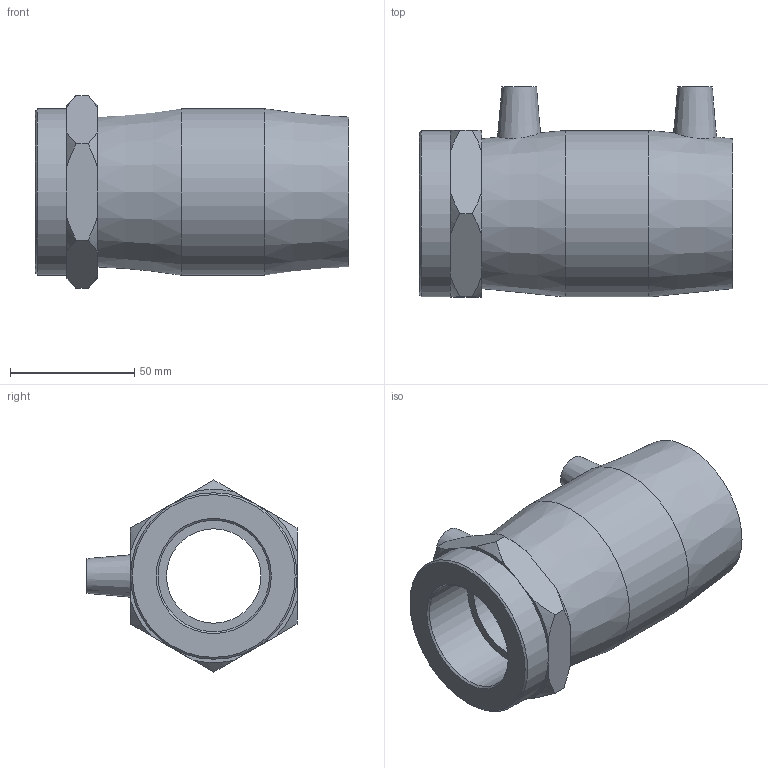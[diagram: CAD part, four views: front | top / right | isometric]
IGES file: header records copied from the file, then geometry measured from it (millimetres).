
Global section: file name: 493104050015.ipt; native system: Autodesk Inventor 2015; preprocessor: unknown; author: KIM; date: 20200202.122446; units: millimetre
Bounding box: 126 x 84.5 x 77.36 mm (x, y, z)
Volume: 236663.2 mm3; surface area: 51765.4 mm2
Topology: 1 solids, 1 shells, 54 faces, 130 edges, 86 vertices
Faces by surface type: plane 24, cone 17, revolution 9, cylinder 4
Full cylindrical faces by diameter (mm): 4 x2, 67 x2
